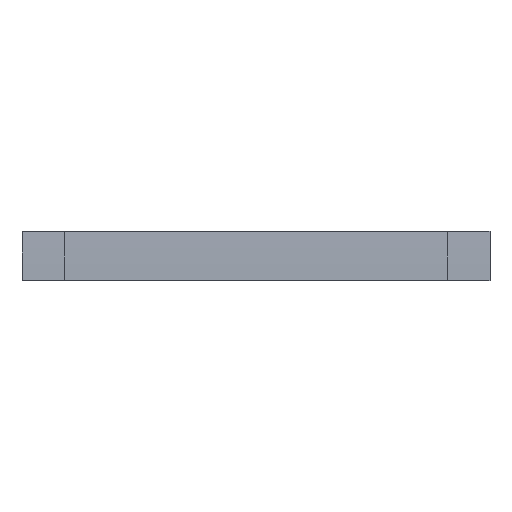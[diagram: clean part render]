
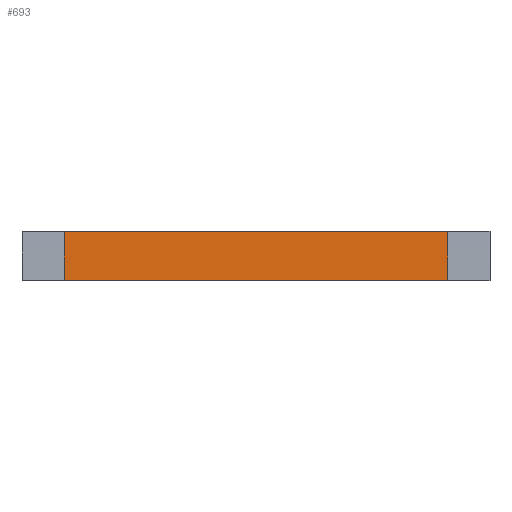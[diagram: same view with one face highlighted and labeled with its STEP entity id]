
A CAD part, front view. The second image highlights one B-rep face of the part: STEP entity #693.
In plain terms, the highlighted cylindrical face has radius 568 mm (diameter 1136 mm), a partial arc.
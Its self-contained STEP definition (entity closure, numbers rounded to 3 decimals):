
#21 = CARTESIAN_POINT ( 'NONE',  ( 95.25, -67.459, 24.776 ) ) ;
#33 = CARTESIAN_POINT ( 'NONE',  ( 95.25, -68., 0. ) ) ;
#103 = DIRECTION ( 'NONE',  ( 0., 0., -1. ) ) ;
#104 = CARTESIAN_POINT ( 'NONE',  ( 0., 500., 0. ) ) ;
#105 = DIRECTION ( 'NONE',  ( 1., 0., 0. ) ) ;
#146 = CARTESIAN_POINT ( 'NONE',  ( -95.25, -68., 0. ) ) ;
#153 = CARTESIAN_POINT ( 'NONE',  ( -95.25, -67.459, 24.776 ) ) ;
#171 = CARTESIAN_POINT ( 'NONE',  ( -95.25, -67.459, 24.776 ) ) ;
#177 = DIRECTION ( 'NONE',  ( 1., 0., 0. ) ) ;
#178 = DIRECTION ( 'NONE',  ( 1., 0., 0. ) ) ;
#181 = CARTESIAN_POINT ( 'NONE',  ( -95.25, -68., 0. ) ) ;
#195 = CARTESIAN_POINT ( 'NONE',  ( 95.25, 500., 0. ) ) ;
#196 = DIRECTION ( 'NONE',  ( 1., 0., 0. ) ) ;
#197 = DIRECTION ( 'NONE',  ( 0., 0., -1. ) ) ;
#208 = CARTESIAN_POINT ( 'NONE',  ( -95.25, 500., 0. ) ) ;
#209 = DIRECTION ( 'NONE',  ( 1., 0., 0. ) ) ;
#210 = DIRECTION ( 'NONE',  ( 0., 0., -1. ) ) ;
#366 = VERTEX_POINT ( 'NONE', #21 ) ;
#378 = VERTEX_POINT ( 'NONE', #33 ) ;
#401 = FACE_OUTER_BOUND ( 'NONE', #800, .T. ) ;
#412 = CYLINDRICAL_SURFACE ( 'NONE', #973, 568. ) ;
#418 = VECTOR ( 'NONE', #178, 1000. ) ;
#430 = LINE ( 'NONE', #181, #439 ) ;
#432 = LINE ( 'NONE', #171, #418 ) ;
#439 = VECTOR ( 'NONE', #177, 1000. ) ;
#445 = CIRCLE ( 'NONE', #988, 568. ) ;
#452 = CIRCLE ( 'NONE', #990, 568. ) ;
#693 = ADVANCED_FACE ( 'NONE', ( #401 ), #412, .T. ) ;
#717 = ORIENTED_EDGE ( 'NONE', *, *, #873, .T. ) ;
#718 = ORIENTED_EDGE ( 'NONE', *, *, #883, .T. ) ;
#719 = ORIENTED_EDGE ( 'NONE', *, *, #871, .F. ) ;
#720 = ORIENTED_EDGE ( 'NONE', *, *, #878, .F. ) ;
#755 = VERTEX_POINT ( 'NONE', #153 ) ;
#761 = VERTEX_POINT ( 'NONE', #146 ) ;
#800 = EDGE_LOOP ( 'NONE', ( #720, #719, #718, #717 ) ) ;
#871 = EDGE_CURVE ( 'NONE', #755, #366, #432, .T. ) ;
#873 = EDGE_CURVE ( 'NONE', #761, #378, #430, .T. ) ;
#878 = EDGE_CURVE ( 'NONE', #366, #378, #445, .T. ) ;
#883 = EDGE_CURVE ( 'NONE', #755, #761, #452, .T. ) ;
#973 = AXIS2_PLACEMENT_3D ( 'NONE', #104, #105, #103 ) ;
#988 = AXIS2_PLACEMENT_3D ( 'NONE', #195, #196, #197 ) ;
#990 = AXIS2_PLACEMENT_3D ( 'NONE', #208, #209, #210 ) ;
